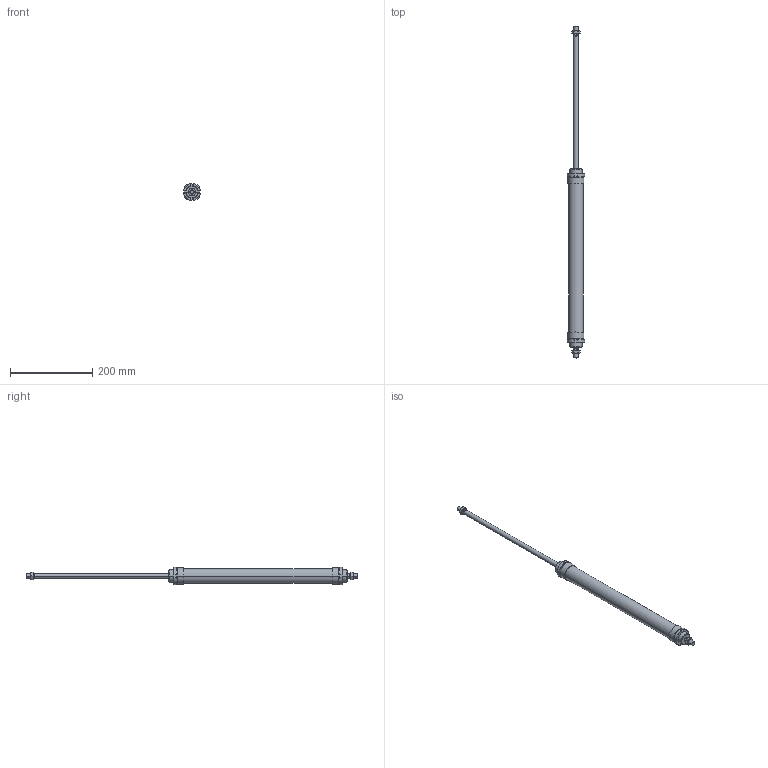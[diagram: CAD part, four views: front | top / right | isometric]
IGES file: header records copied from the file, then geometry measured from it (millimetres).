
Global section: file name: No Iges File Name specified; native system: AutoDesk Inventor R6.0; preprocessor: AutoDesk Inventor Iges Exporter R6.0; author: No Author specified; organization: No Organization specified; date: 20030403.072716; units: millimetre
Bounding box: 41.7 x 805 x 41.7 mm (x, y, z)
Volume: 486510 mm3; surface area: 106331.5 mm2
Topology: 6 solids, 6 shells, 182 faces, 424 edges, 264 vertices
Faces by surface type: plane 66, cone 52, bspline 30, cylinder 28, revolution 6
